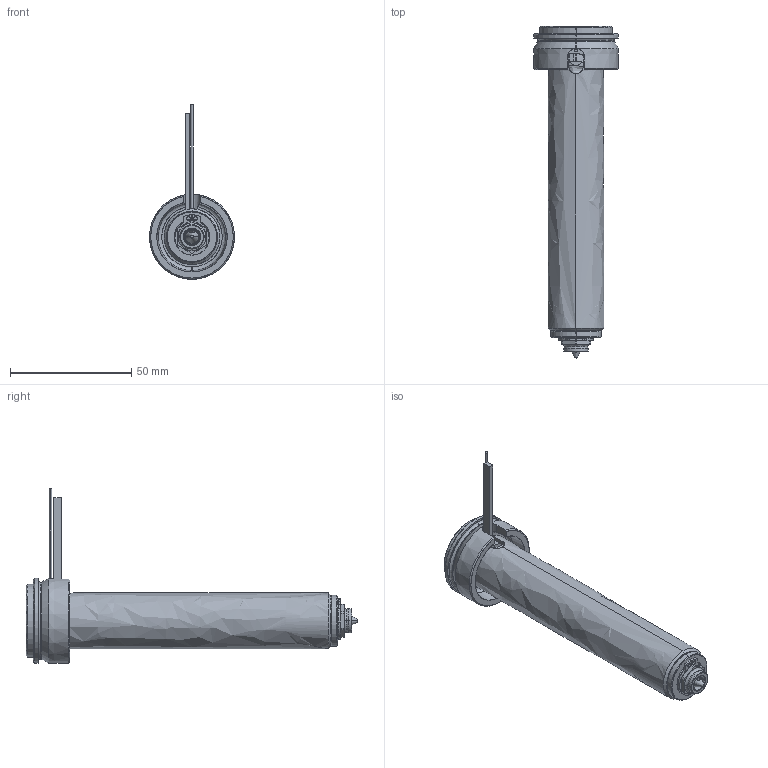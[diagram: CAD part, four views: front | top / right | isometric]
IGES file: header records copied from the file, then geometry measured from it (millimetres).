
Start section: SolidWorks IGES file using analytic representation for surfaces
Global section: file name: C:\Documents and Settings\ws-20\Desktop\TEM\UGEP3053-M-A-0 [Øf-1.10 ØC-6.0].IGS; native system: SolidWorks 2012; preprocessor: SolidWorks 2012; author: ws-20; date: 120402.112423; units: millimetre
Bounding box: 35 x 136.8 x 71.9 mm (x, y, z)
Surface area: 27283 mm2 (no closed solid volume)
Topology: 0 solids, 0 shells, 131 faces, 1928 edges, 1928 vertices
Faces by surface type: revolution 79, bspline 52
